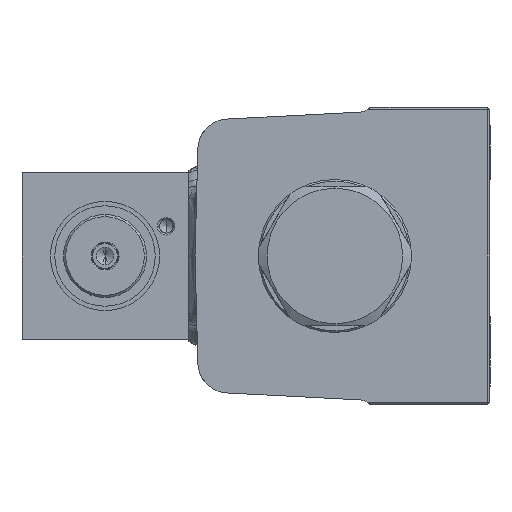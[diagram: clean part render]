
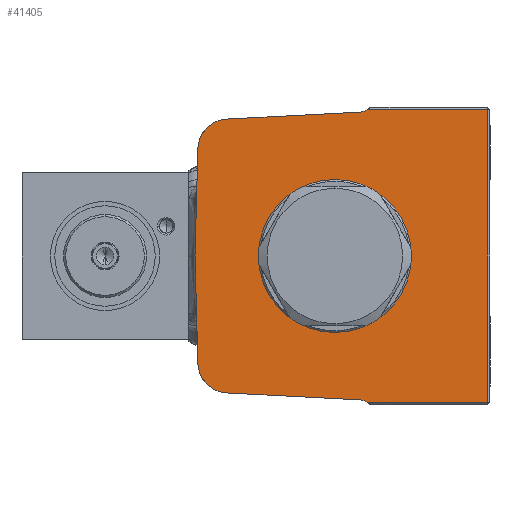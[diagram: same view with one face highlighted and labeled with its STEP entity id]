
A CAD part, left-side view. The second image highlights one B-rep face of the part: STEP entity #41405.
In plain terms, the highlighted planar face has unit normal (-1, 0, 0).
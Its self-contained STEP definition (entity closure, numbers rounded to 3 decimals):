
#625 = DIRECTION ( 'NONE',  ( -1., 0., 0. ) ) ;
#1108 = VECTOR ( 'NONE', #65762, 1000. ) ;
#2311 = VECTOR ( 'NONE', #34994, 1000. ) ;
#2679 = VERTEX_POINT ( 'NONE', #36834 ) ;
#2696 = ORIENTED_EDGE ( 'NONE', *, *, #10633, .F. ) ;
#2699 = CARTESIAN_POINT ( 'NONE',  ( -46.6, 31.358, -24.53 ) ) ;
#3170 = PLANE ( 'NONE',  #44296 ) ;
#3421 = DIRECTION ( 'NONE',  ( -1., 0., 0. ) ) ;
#3795 = VECTOR ( 'NONE', #42446, 1000. ) ;
#4151 = LINE ( 'NONE', #46100, #2311 ) ;
#6298 = EDGE_CURVE ( 'NONE', #45552, #16594, #18410, .T. ) ;
#6469 = LINE ( 'NONE', #52674, #21960 ) ;
#6965 = CARTESIAN_POINT ( 'NONE',  ( -46.6, 31.358, 24.53 ) ) ;
#7735 = CARTESIAN_POINT ( 'NONE',  ( -46.6, 16., 0. ) ) ;
#7938 = DIRECTION ( 'NONE',  ( -1., 0., 0. ) ) ;
#8130 = CARTESIAN_POINT ( 'NONE',  ( -46.6, -5.85, -32.94 ) ) ;
#8462 = CIRCLE ( 'NONE', #40973, 7. ) ;
#9231 = FACE_OUTER_BOUND ( 'NONE', #11637, .T. ) ;
#9384 = CARTESIAN_POINT ( 'NONE',  ( -46.6, 24.726, 31.337 ) ) ;
#9620 = AXIS2_PLACEMENT_3D ( 'NONE', #61139, #27225, #66890 ) ;
#10633 = EDGE_CURVE ( 'NONE', #38666, #41306, #12102, .T. ) ;
#11637 = EDGE_LOOP ( 'NONE', ( #50118, #35652, #72242, #18021, #55883, #65130, #49889, #47400, #46586, #35591, #69729 ) ) ;
#12102 = CIRCLE ( 'NONE', #68898, 16. ) ;
#15924 = CARTESIAN_POINT ( 'NONE',  ( -46.6, -35., -33.5 ) ) ;
#16594 = VERTEX_POINT ( 'NONE', #37320 ) ;
#16600 = LINE ( 'NONE', #26099, #1108 ) ;
#18021 = ORIENTED_EDGE ( 'NONE', *, *, #37652, .T. ) ;
#18410 = CIRCLE ( 'NONE', #9620, 3. ) ;
#18453 = EDGE_CURVE ( 'NONE', #2679, #74026, #48845, .T. ) ;
#19096 = CARTESIAN_POINT ( 'NONE',  ( -46.6, -7.444, 33.5 ) ) ;
#19380 = CARTESIAN_POINT ( 'NONE',  ( -46.6, -16., 0. ) ) ;
#19690 = EDGE_CURVE ( 'NONE', #43845, #30445, #32738, .T. ) ;
#20964 = CARTESIAN_POINT ( 'NONE',  ( -46.6, 24.36, -24.347 ) ) ;
#21960 = VECTOR ( 'NONE', #53176, 1000. ) ;
#22349 = EDGE_CURVE ( 'NONE', #43845, #74026, #54951, .T. ) ;
#23132 = AXIS2_PLACEMENT_3D ( 'NONE', #20964, #60684, #26774 ) ;
#24435 = EDGE_CURVE ( 'NONE', #41306, #38666, #67695, .T. ) ;
#24804 = VECTOR ( 'NONE', #30332, 1000. ) ;
#25258 = CARTESIAN_POINT ( 'NONE',  ( -46.6, -5.693, 35.936 ) ) ;
#25673 = DIRECTION ( 'NONE',  ( 0., 0., 1. ) ) ;
#26099 = CARTESIAN_POINT ( 'NONE',  ( -46.6, -35.5, -33.5 ) ) ;
#26774 = DIRECTION ( 'NONE',  ( 0., 0., 1. ) ) ;
#26842 = DIRECTION ( 'NONE',  ( -1., 0., 0. ) ) ;
#27225 = DIRECTION ( 'NONE',  ( 1., 0., 0. ) ) ;
#30332 = DIRECTION ( 'NONE',  ( 0., -0.026, -1. ) ) ;
#30398 = ORIENTED_EDGE ( 'NONE', *, *, #24435, .F. ) ;
#30445 = VERTEX_POINT ( 'NONE', #6965 ) ;
#30503 = LINE ( 'NONE', #67849, #60553 ) ;
#31043 = DIRECTION ( 'NONE',  ( 0., 0., 1. ) ) ;
#32738 = LINE ( 'NONE', #59471, #3795 ) ;
#33301 = EDGE_CURVE ( 'NONE', #16594, #73480, #16600, .T. ) ;
#33910 = DIRECTION ( 'NONE',  ( 0., -0.999, 0.052 ) ) ;
#34994 = DIRECTION ( 'NONE',  ( 0., 1., 0. ) ) ;
#35244 = CARTESIAN_POINT ( 'NONE',  ( -46.6, 24.36, 24.347 ) ) ;
#35444 = VERTEX_POINT ( 'NONE', #39309 ) ;
#35591 = ORIENTED_EDGE ( 'NONE', *, *, #18453, .F. ) ;
#35652 = ORIENTED_EDGE ( 'NONE', *, *, #33301, .T. ) ;
#36834 = CARTESIAN_POINT ( 'NONE',  ( -46.6, 24.726, -31.337 ) ) ;
#37320 = CARTESIAN_POINT ( 'NONE',  ( -46.6, -7.444, -33.5 ) ) ;
#37652 = EDGE_CURVE ( 'NONE', #35444, #69806, #4151, .T. ) ;
#37953 = CARTESIAN_POINT ( 'NONE',  ( -46.6, -35.5, -34. ) ) ;
#38666 = VERTEX_POINT ( 'NONE', #19380 ) ;
#39309 = CARTESIAN_POINT ( 'NONE',  ( -46.6, -35., 33.5 ) ) ;
#40059 = CIRCLE ( 'NONE', #69713, 3. ) ;
#40956 = DIRECTION ( 'NONE',  ( 0., 0., 1. ) ) ;
#40973 = AXIS2_PLACEMENT_3D ( 'NONE', #35244, #625, #40956 ) ;
#41306 = VERTEX_POINT ( 'NONE', #7735 ) ;
#41405 = ADVANCED_FACE ( 'NONE', ( #9231, #54836 ), #3170, .T. ) ;
#42367 = CARTESIAN_POINT ( 'NONE',  ( -46.6, 0., 0. ) ) ;
#42386 = CARTESIAN_POINT ( 'NONE',  ( -46.6, -5.85, 32.94 ) ) ;
#42446 = DIRECTION ( 'NONE',  ( 0., -0.026, 1. ) ) ;
#43610 = DIRECTION ( 'NONE',  ( 0., 0., 1. ) ) ;
#43845 = VERTEX_POINT ( 'NONE', #57849 ) ;
#44296 = AXIS2_PLACEMENT_3D ( 'NONE', #37953, #3421, #43610 ) ;
#44673 = AXIS2_PLACEMENT_3D ( 'NONE', #60759, #26842, #66523 ) ;
#45552 = VERTEX_POINT ( 'NONE', #8130 ) ;
#46100 = CARTESIAN_POINT ( 'NONE',  ( -46.6, -35.5, 33.5 ) ) ;
#46586 = ORIENTED_EDGE ( 'NONE', *, *, #22349, .T. ) ;
#47400 = ORIENTED_EDGE ( 'NONE', *, *, #19690, .F. ) ;
#48033 = DIRECTION ( 'NONE',  ( 0., -1., 0. ) ) ;
#48845 = CIRCLE ( 'NONE', #23132, 7. ) ;
#49461 = VECTOR ( 'NONE', #25673, 1000. ) ;
#49553 = EDGE_LOOP ( 'NONE', ( #2696, #30398 ) ) ;
#49889 = ORIENTED_EDGE ( 'NONE', *, *, #70688, .T. ) ;
#50118 = ORIENTED_EDGE ( 'NONE', *, *, #6298, .T. ) ;
#52674 = CARTESIAN_POINT ( 'NONE',  ( -46.6, 1.706, -32.544 ) ) ;
#53176 = DIRECTION ( 'NONE',  ( 0., -0.999, -0.052 ) ) ;
#54836 = FACE_BOUND ( 'NONE', #49553, .T. ) ;
#54951 = LINE ( 'NONE', #64215, #24804 ) ;
#55883 = ORIENTED_EDGE ( 'NONE', *, *, #63630, .T. ) ;
#56651 = VERTEX_POINT ( 'NONE', #42386 ) ;
#57849 = CARTESIAN_POINT ( 'NONE',  ( -46.6, 32., 0. ) ) ;
#59471 = CARTESIAN_POINT ( 'NONE',  ( -46.6, 31.978, 0.837 ) ) ;
#59587 = CARTESIAN_POINT ( 'NONE',  ( -46.6, -35., -34. ) ) ;
#59799 = EDGE_CURVE ( 'NONE', #73480, #35444, #64543, .T. ) ;
#60553 = VECTOR ( 'NONE', #33910, 1000. ) ;
#60684 = DIRECTION ( 'NONE',  ( 1., 0., 0. ) ) ;
#60759 = CARTESIAN_POINT ( 'NONE',  ( -46.6, 0., 0. ) ) ;
#61139 = CARTESIAN_POINT ( 'NONE',  ( -46.6, -5.693, -35.936 ) ) ;
#63630 = EDGE_CURVE ( 'NONE', #69806, #56651, #40059, .T. ) ;
#64215 = CARTESIAN_POINT ( 'NONE',  ( -46.6, 31.978, -0.837 ) ) ;
#64543 = LINE ( 'NONE', #59587, #49461 ) ;
#64936 = DIRECTION ( 'NONE',  ( 1., 0., 0. ) ) ;
#65130 = ORIENTED_EDGE ( 'NONE', *, *, #67474, .F. ) ;
#65632 = EDGE_CURVE ( 'NONE', #2679, #45552, #6469, .T. ) ;
#65762 = DIRECTION ( 'NONE',  ( 0., -1., 0. ) ) ;
#66523 = DIRECTION ( 'NONE',  ( 0., -1., 0. ) ) ;
#66890 = DIRECTION ( 'NONE',  ( 0., 0., 1. ) ) ;
#67474 = EDGE_CURVE ( 'NONE', #71095, #56651, #30503, .T. ) ;
#67695 = CIRCLE ( 'NONE', #44673, 16. ) ;
#67849 = CARTESIAN_POINT ( 'NONE',  ( -46.6, 1.706, 32.544 ) ) ;
#68898 = AXIS2_PLACEMENT_3D ( 'NONE', #42367, #7938, #48033 ) ;
#69713 = AXIS2_PLACEMENT_3D ( 'NONE', #25258, #64936, #31043 ) ;
#69729 = ORIENTED_EDGE ( 'NONE', *, *, #65632, .T. ) ;
#69806 = VERTEX_POINT ( 'NONE', #19096 ) ;
#70688 = EDGE_CURVE ( 'NONE', #71095, #30445, #8462, .T. ) ;
#71095 = VERTEX_POINT ( 'NONE', #9384 ) ;
#72242 = ORIENTED_EDGE ( 'NONE', *, *, #59799, .T. ) ;
#73480 = VERTEX_POINT ( 'NONE', #15924 ) ;
#74026 = VERTEX_POINT ( 'NONE', #2699 ) ;
